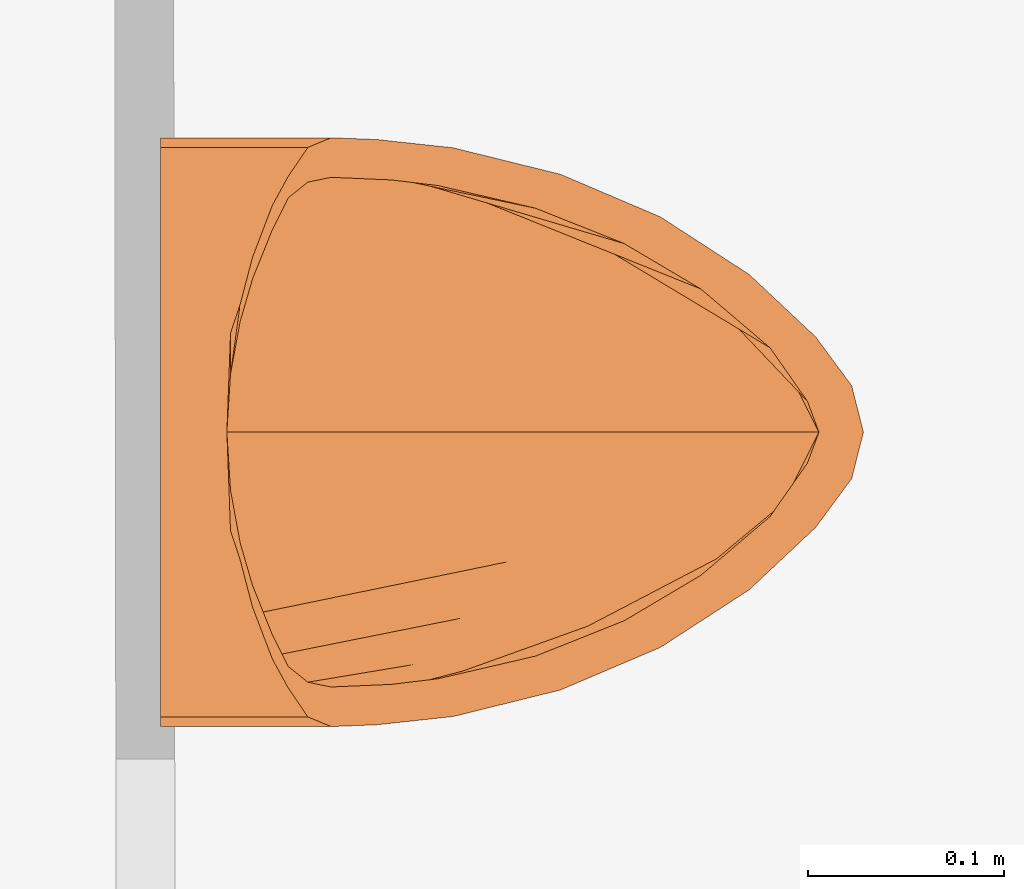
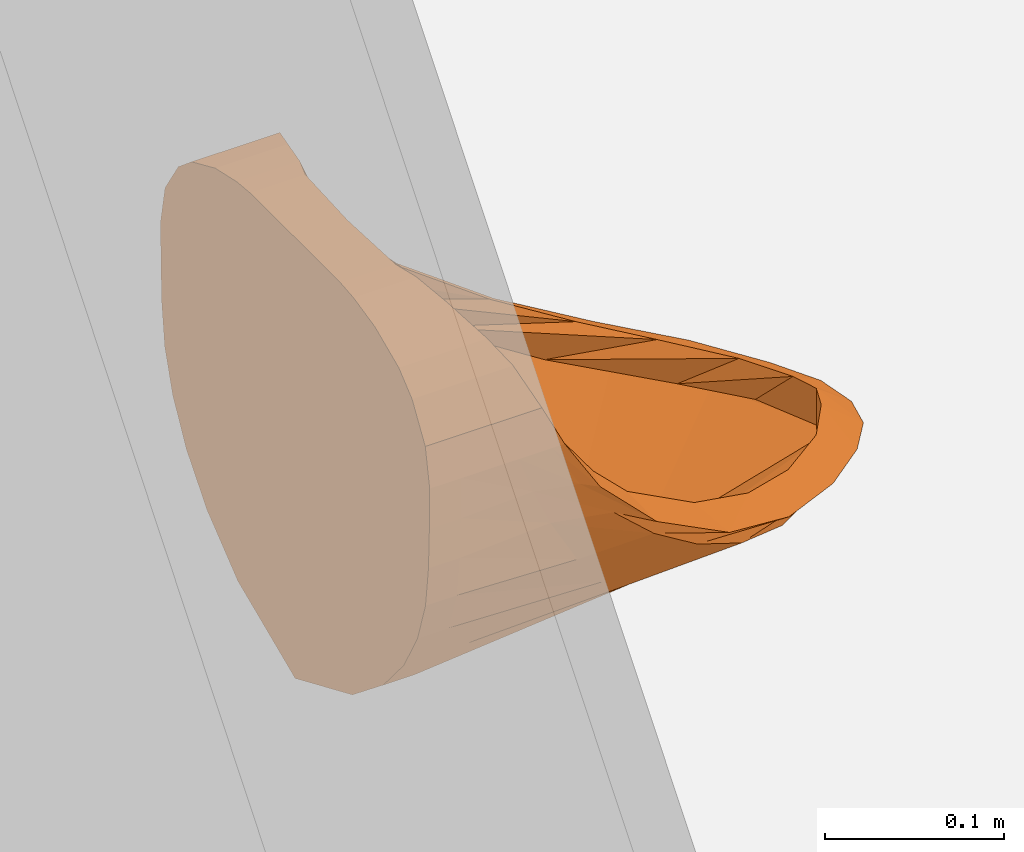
# One storey, part 154 of 158: 1 proxy.
"""IFC2X3 building model written with IfcOpenShell, lengths in metres."""

from ifc_helpers import new_model, entity, si_unit, converted_unit, derived_unit, money_unit, direction, frame, origin_with_axes, place, context, subcontext, project, spatial, open_shell, faceted_brep, surface_model, type_object, element, save


model = new_model("IFC2X3")

# Units and contexts
model_context = context("Model", 3, precision=1e-05, world=origin_with_axes(), true_north=direction((0.0, 1.0)))
body_context = subcontext(model_context, "Body", "Model", "MODEL_VIEW")
ifc_project = project(units=[si_unit("LENGTHUNIT", "METRE"), si_unit("AREAUNIT", "SQUARE_METRE"), si_unit("VOLUMEUNIT", "CUBIC_METRE"), converted_unit("PLANEANGLEUNIT", "DEGREE", entity("IfcPlaneAngleMeasure", 0.0174532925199), si_unit("PLANEANGLEUNIT", "RADIAN"), dimensions=[0, 0, 0, 0, 0, 0, 0]), money_unit("EUR"), converted_unit("TIMEUNIT", "Year", entity("IfcTimeMeasure", 31556926.0), si_unit("TIMEUNIT", "SECOND"), dimensions=[0, 0, 1, 0, 0, 0, 0]), si_unit("MASSUNIT", "GRAM", prefix="KILO"), si_unit("THERMODYNAMICTEMPERATUREUNIT", "DEGREE_CELSIUS"), si_unit("LUMINOUSINTENSITYUNIT", "LUMEN"), si_unit("ENERGYUNIT", "JOULE", prefix="MEGA"), derived_unit("THERMALCONDUCTANCEUNIT", [(si_unit("POWERUNIT", "WATT"), 1), (si_unit("LENGTHUNIT", "METRE"), -1), (si_unit("THERMODYNAMICTEMPERATUREUNIT", "KELVIN"), -1)]), derived_unit("SPECIFICHEATCAPACITYUNIT", [(si_unit("ENERGYUNIT", "JOULE"), 1), (si_unit("MASSUNIT", "GRAM", prefix="KILO"), -1), (si_unit("THERMODYNAMICTEMPERATUREUNIT", "KELVIN"), -1)]), derived_unit("MASSDENSITYUNIT", [(si_unit("MASSUNIT", "GRAM", prefix="KILO"), 1), (si_unit("VOLUMEUNIT", "CUBIC_METRE"), -1)])], contexts=[model_context])

# Site, building, storey
site_placement = place(None, origin_with_axes())
site = spatial("IfcSite", under=ifc_project, at=site_placement, Name="Gelände", CompositionType="ELEMENT")
building_placement = place(site_placement, origin_with_axes())
building = spatial("IfcBuilding", under=site, at=building_placement, Name="Gebäude", CompositionType="ELEMENT")
storey_placement = place(building_placement, origin_with_axes())
storey = spatial("IfcBuildingStorey", under=building, at=storey_placement, Name="ERDGESCHOSS", CompositionType="ELEMENT", Elevation=0.0)

# Proxy
building_element_proxy_type = type_object("IfcBuildingElementProxyType", Name="Urinal 1 25", PredefinedType="NOTDEFINED")
proxy_placement = place(storey_placement, frame((13.2964226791, 23.1606576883, -0.10329353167), z_axis=(0.0, 0.0, 1.0), x_axis=(0.0, 1.0, 0.0)))
element("IfcBuildingElementProxy", 1, at=proxy_placement, inside=storey, type_object=building_element_proxy_type, Name="Objekt-00219", context=body_context, shape_type="SurfaceModel", body=[
    faceted_brep([(0.0, 0.00675687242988, 1.0), (-0.0503710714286, 0.00675687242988, 0.999898), (-0.0503710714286, 0.0, 0.999898), (0.0, 0.0, 1.0), (0.0503710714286, 0.00675687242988, 0.999898), (0.0650260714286, 0.00675687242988, 0.998525), (0.0890367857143, 0.00675687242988, 0.993198), (0.115533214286, 0.00675687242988, 0.981535), (0.130329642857, 0.00675687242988, 0.969181), (0.1451025, 0.00675687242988, 0.945871), (0.15, 0.00675687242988, 0.920148), (0.149671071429, 0.00675687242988, 0.89263), (0.148683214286, 0.00675687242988, 0.865111), (0.145370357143, 0.00675687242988, 0.837593), (0.136527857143, 0.00675687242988, 0.810074), (0.121330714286, 0.00675687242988, 0.782556), (0.0982478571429, 0.00675687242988, 0.755037), (0.0638796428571, 0.00675687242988, 0.727519), (0.0, 0.00675687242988, 0.7), (-0.0638796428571, 0.00675687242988, 0.727519), (-0.0982478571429, 0.00675687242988, 0.755037), (-0.121330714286, 0.00675687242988, 0.782556), (-0.136527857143, 0.00675687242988, 0.810074), (-0.145370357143, 0.00675687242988, 0.837593), (-0.148683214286, 0.00675687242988, 0.865111), (-0.149671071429, 0.00675687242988, 0.89263), (-0.15, 0.00675687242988, 0.920148), (-0.1451025, 0.00675687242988, 0.945871), (-0.130329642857, 0.00675687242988, 0.969181), (-0.115533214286, 0.00675687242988, 0.981535), (-0.0890367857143, 0.00675687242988, 0.993198), (-0.0650260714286, 0.00675687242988, 0.998525), (-0.0650260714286, 0.0, 0.998525), (-0.0890367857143, 0.0, 0.993198), (-0.115533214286, 0.0, 0.981535), (-0.130329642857, 0.0, 0.969181), (-0.1451025, 0.0, 0.945871), (-0.15, 0.0, 0.920148), (-0.149671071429, 0.0, 0.89263), (-0.148683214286, 0.0, 0.865111), (-0.145370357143, 0.0, 0.837593), (-0.136527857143, 0.0, 0.810074), (-0.121330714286, 0.0, 0.782556), (-0.0982478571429, 0.0, 0.755037), (-0.0638796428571, 0.0, 0.727519), (0.0, 0.0, 0.7), (0.0638796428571, 0.0, 0.727519), (0.0982478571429, 0.0, 0.755037), (0.121330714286, 0.0, 0.782556), (0.136527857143, 0.0, 0.810074), (0.145370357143, 0.0, 0.837593), (0.148683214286, 0.0, 0.865111), (0.149671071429, 0.0, 0.89263), (0.15, 0.0, 0.920148), (0.1451025, 0.0, 0.945871), (0.130329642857, 0.0, 0.969181), (0.115533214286, 0.0, 0.981535), (0.0890367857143, 0.0, 0.993198), (0.0650260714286, 0.0, 0.998525), (0.0503710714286, 0.0, 0.999898)], [[[0, 1, 2, 3]], [[0, 4, 5, 6, 7, 8, 9, 10, 11, 12, 13, 14, 15, 16, 17, 18, 19, 20, 21, 22, 23, 24, 25, 26, 27, 28, 29, 30, 31, 1]], [[1, 31, 32, 2]], [[3, 2, 32, 33, 34, 35, 36, 37, 38, 39, 40, 41, 42, 43, 44, 45, 46, 47, 48, 49, 50, 51, 52, 53, 54, 55, 56, 57, 58, 59]], [[4, 0, 3, 59]], [[5, 4, 59, 58]], [[6, 5, 58, 57]], [[7, 6, 57, 56]], [[8, 7, 56, 55]], [[9, 8, 55, 54]], [[10, 9, 54, 53]], [[11, 10, 53, 52]], [[12, 11, 52, 51]], [[13, 12, 51, 50]], [[14, 13, 50, 49]], [[15, 14, 49, 48]], [[16, 15, 48, 47]], [[17, 16, 47, 46]], [[18, 17, 46, 45]], [[19, 18, 45, 44]], [[20, 19, 44, 43]], [[21, 20, 43, 42]], [[22, 21, 42, 41]], [[23, 22, 41, 40]], [[24, 23, 40, 39]], [[25, 24, 39, 38]], [[26, 25, 38, 37]], [[27, 26, 37, 36]], [[28, 27, 36, 35]], [[29, 28, 35, 34]], [[30, 29, 34, 33]], [[31, 30, 33, 32]]]),
    surface_model("IfcShellBasedSurfaceModel", [(0.0, 0.0, 1.0), (0.0, -0.0135137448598, 1.0), (-0.0503710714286, -0.0135137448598, 0.999898), (0.0503710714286, 0.0, 0.999898), (-0.0503710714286, -0.0203165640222, 0.999898), (-0.0503710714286, 0.0, 0.999898), (0.0503710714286, -0.0135137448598, 0.999898), (0.0, -0.0202706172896, 1.0), (-0.0650260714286, -0.0209368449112, 0.998525), (-0.0650260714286, -0.0135137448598, 0.998525), (0.0650260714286, 0.0, 0.998525), (-0.0503710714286, -0.0260072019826, 0.999898), (-0.0650260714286, -0.0268828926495, 0.998525), (-0.0650260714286, 0.0, 0.998525), (0.0650260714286, -0.0135137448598, 0.998525), (0.0503710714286, -0.0203165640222, 0.999898), (0.0, -0.0259369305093, 1.0), (-0.0890367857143, -0.0304978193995, 0.993198), (-0.0890367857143, -0.0233085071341, 0.993198), (-0.0890367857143, -0.0135137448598, 0.993198), (0.0890367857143, 0.0, 0.993198), (-0.0503710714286, -0.0288788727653, 0.999898), (-0.0650260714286, -0.033774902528, 0.998525), (-0.0890367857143, -0.0400696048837, 0.993198), (-0.0890367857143, 0.0, 0.993198), (0.0890367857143, -0.0135137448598, 0.993198), (0.0650260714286, -0.0209368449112, 0.998525), (0.0503710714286, -0.0260072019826, 0.999898), (0.0, -0.0270274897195, 1.0), (-0.115533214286, -0.0501778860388, 0.981535), (-0.115533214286, -0.0380330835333, 0.981535), (-0.115533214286, -0.0283139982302, 0.981535), (-0.115533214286, -0.0135137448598, 0.981535), (0.115533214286, 0.0, 0.981535), (-0.115533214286, 0.0, 0.981535), (0.115533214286, -0.0135137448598, 0.981535), (0.0890367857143, -0.0233085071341, 0.993198), (0.0650260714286, -0.0268828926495, 0.998525), (0.0503710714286, -0.0288788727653, 0.999898), (-0.130329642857, -0.0582820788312, 0.969181), (-0.130329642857, -0.0456318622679, 0.969181), (-0.130329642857, -0.033341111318, 0.969181), (-0.130329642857, -0.0135137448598, 0.969181), (0.130329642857, 0.0, 0.969181), (-0.130329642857, 0.0, 0.969181), (0.130329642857, -0.0135137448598, 0.969181), (0.115533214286, -0.0283139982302, 0.981535), (0.0890367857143, -0.0304978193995, 0.993198), (0.0650260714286, -0.033774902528, 0.998525), (-0.1451025, -0.0682984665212, 0.945871), (-0.1451025, -0.0589320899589, 0.945871), (-0.1451025, -0.0420682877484, 0.945871), (-0.1451025, -0.0135137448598, 0.945871), (0.1451025, 0.0, 0.945871), (-0.1451025, 0.0, 0.945871), (0.1451025, -0.0135137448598, 0.945871), (0.130329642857, -0.033341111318, 0.969181), (0.115533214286, -0.0380330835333, 0.981535), (0.0890367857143, -0.0400696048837, 0.993198), (-0.15, -0.0801797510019, 0.920148), (-0.15, -0.0720958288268, 0.920148), (-0.15, -0.0505697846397, 0.920148), (-0.15, -0.0135137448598, 0.920148), (0.15, 0.0, 0.920148), (-0.15, 0.0, 0.920148), (0.15, -0.0135137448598, 0.920148), (0.1451025, -0.0420682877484, 0.945871), (0.130329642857, -0.0456318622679, 0.969181), (0.115533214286, -0.0501778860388, 0.981535), (-0.149088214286, -0.103467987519, 0.882346), (-0.148938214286, -0.0903839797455, 0.888729), (-0.148493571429, -0.0605010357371, 0.893637), (-0.149671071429, -0.0135137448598, 0.89263), (0.149671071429, 0.0, 0.89263), (-0.149671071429, 0.0, 0.89263), (0.149671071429, -0.0135137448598, 0.89263), (0.15, -0.0505697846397, 0.920148), (0.1451025, -0.0589320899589, 0.945871), (0.130329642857, -0.0582820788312, 0.969181), (-0.144867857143, -0.142378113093, 0.842424), (-0.146004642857, -0.113960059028, 0.859303), (-0.1458225, -0.0733080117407, 0.866246), (-0.148683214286, -0.0135137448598, 0.865111), (0.148683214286, 0.0, 0.865111), (-0.148683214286, 0.0, 0.865111), (0.148683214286, -0.0135137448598, 0.865111), (0.148493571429, -0.0605010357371, 0.893637), (0.15, -0.0720958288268, 0.920148), (0.1451025, -0.0682984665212, 0.945871), (-0.131359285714, -0.197015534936, 0.807653), (-0.1416, -0.142436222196, 0.832354), (-0.137941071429, -0.095204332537, 0.829001), (-0.145370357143, -0.0135137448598, 0.837593), (0.145370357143, 0.0, 0.837593), (-0.145370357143, 0.0, 0.837593), (0.145370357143, -0.0135137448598, 0.837593), (0.1458225, -0.0733080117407, 0.866246), (0.148938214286, -0.0903839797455, 0.888729), (0.15, -0.0801797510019, 0.920148), (-0.109682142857, -0.247913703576, 0.787417), (-0.133041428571, -0.175343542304, 0.808327), (-0.118344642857, -0.122475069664, 0.792232), (-0.136527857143, -0.0135137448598, 0.810074), (0.136527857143, 0.0, 0.810074), (-0.136527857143, 0.0, 0.810074), (0.136527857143, -0.0135137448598, 0.810074), (0.137941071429, -0.095204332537, 0.829001), (0.146004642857, -0.113960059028, 0.859303), (0.149088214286, -0.103467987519, 0.882346), (-0.0803528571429, -0.293141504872, 0.776444), (-0.1187925, -0.212140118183, 0.787618), (-0.09477, -0.146671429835, 0.76517), (-0.121330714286, -0.0135137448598, 0.782556), (0.121330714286, 0.0, 0.782556), (-0.121330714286, 0.0, 0.782556), (0.121330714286, -0.0135137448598, 0.782556), (0.118344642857, -0.122475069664, 0.792232), (0.1416, -0.142436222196, 0.832354), (0.144867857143, -0.142378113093, 0.842424), (-0.0486064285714, -0.326966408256, 0.768676), (-0.0942653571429, -0.252217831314, 0.770567), (-0.0659742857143, -0.170440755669, 0.742159), (-0.0982478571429, -0.0135137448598, 0.755037), (0.0982478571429, 0.0, 0.755037), (-0.0982478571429, 0.0, 0.755037), (0.0982478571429, -0.0135137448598, 0.755037), (0.09477, -0.146671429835, 0.76517), (0.133041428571, -0.175343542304, 0.808327), (0.131359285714, -0.197015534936, 0.807653), (-0.0237192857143, -0.345362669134, 0.765137), (-0.0589767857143, -0.294917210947, 0.757456), (-0.0335507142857, -0.193288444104, 0.724265), (-0.0638796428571, -0.0135137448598, 0.727519), (0.0638796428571, 0.0, 0.727519), (-0.0638796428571, 0.0, 0.727519), (0.0638796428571, -0.0135137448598, 0.727519), (0.0659742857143, -0.170440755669, 0.742159), (0.1187925, -0.212140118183, 0.787618), (0.109682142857, -0.247913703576, 0.787417), (0.0, -0.351357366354, 0.763229), (0.0, -0.339534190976, 0.748501), (0.0, -0.213933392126, 0.712313), (0.0, -0.0135137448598, 0.7), (0.0, 0.0, 0.7), (0.0335507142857, -0.193288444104, 0.724265), (0.0942653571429, -0.252217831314, 0.770567), (0.0803528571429, -0.293141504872, 0.776444), (0.0237192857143, -0.345362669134, 0.765137), (0.0589767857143, -0.294917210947, 0.757456), (0.0486064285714, -0.326966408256, 0.768676)], [open_shell([[[0, 1, 2]], [[3, 1, 0]], [[1, 4, 2]], [[0, 2, 5]], [[3, 6, 1]], [[1, 7, 4]], [[2, 4, 8]], [[5, 2, 9]], [[10, 6, 3]], [[6, 7, 1]], [[7, 11, 4]], [[4, 12, 8]], [[2, 8, 9]], [[5, 9, 13]], [[10, 14, 6]], [[6, 15, 7]], [[7, 16, 11]], [[4, 11, 12]], [[8, 12, 17]], [[9, 8, 18]], [[13, 9, 19]], [[20, 14, 10]], [[14, 15, 6]], [[15, 16, 7]], [[16, 21, 11]], [[11, 22, 12]], [[12, 23, 17]], [[8, 17, 18]], [[9, 18, 19]], [[13, 19, 24]], [[20, 25, 14]], [[14, 26, 15]], [[15, 27, 16]], [[16, 28, 21]], [[11, 21, 22]], [[12, 22, 23]], [[17, 23, 29]], [[18, 17, 30]], [[19, 18, 31]], [[24, 19, 32]], [[33, 25, 20]], [[25, 26, 14]], [[26, 27, 15]], [[27, 28, 16]], [[17, 29, 30]], [[18, 30, 31]], [[19, 31, 32]], [[24, 32, 34]], [[33, 35, 25]], [[25, 36, 26]], [[26, 37, 27]], [[27, 38, 28]], [[30, 29, 39]], [[31, 30, 40]], [[32, 31, 41]], [[34, 32, 42]], [[43, 35, 33]], [[35, 36, 25]], [[36, 37, 26]], [[37, 38, 27]], [[30, 39, 40]], [[31, 40, 41]], [[32, 41, 42]], [[34, 42, 44]], [[43, 45, 35]], [[35, 46, 36]], [[36, 47, 37]], [[37, 48, 38]], [[40, 39, 49]], [[41, 40, 50]], [[42, 41, 51]], [[44, 42, 52]], [[53, 45, 43]], [[45, 46, 35]], [[46, 47, 36]], [[47, 48, 37]], [[40, 49, 50]], [[41, 50, 51]], [[42, 51, 52]], [[44, 52, 54]], [[53, 55, 45]], [[45, 56, 46]], [[46, 57, 47]], [[47, 58, 48]], [[50, 49, 59]], [[51, 50, 60]], [[52, 51, 61]], [[54, 52, 62]], [[63, 55, 53]], [[55, 56, 45]], [[56, 57, 46]], [[57, 58, 47]], [[50, 59, 60]], [[51, 60, 61]], [[52, 61, 62]], [[54, 62, 64]], [[63, 65, 55]], [[55, 66, 56]], [[56, 67, 57]], [[57, 68, 58]], [[60, 59, 69]], [[61, 60, 70]], [[62, 61, 71]], [[64, 62, 72]], [[73, 65, 63]], [[65, 66, 55]], [[66, 67, 56]], [[67, 68, 57]], [[60, 69, 70]], [[61, 70, 71]], [[62, 71, 72]], [[64, 72, 74]], [[73, 75, 65]], [[65, 76, 66]], [[66, 77, 67]], [[67, 78, 68]], [[70, 69, 79]], [[71, 70, 80]], [[72, 71, 81]], [[74, 72, 82]], [[83, 75, 73]], [[75, 76, 65]], [[76, 77, 66]], [[77, 78, 67]], [[70, 79, 80]], [[71, 80, 81]], [[72, 81, 82]], [[74, 82, 84]], [[83, 85, 75]], [[75, 86, 76]], [[76, 87, 77]], [[77, 88, 78]], [[80, 79, 89]], [[81, 80, 90]], [[82, 81, 91]], [[84, 82, 92]], [[93, 85, 83]], [[85, 86, 75]], [[86, 87, 76]], [[87, 88, 77]], [[80, 89, 90]], [[81, 90, 91]], [[82, 91, 92]], [[84, 92, 94]], [[93, 95, 85]], [[85, 96, 86]], [[86, 97, 87]], [[87, 98, 88]], [[90, 89, 99]], [[91, 90, 100]], [[92, 91, 101]], [[94, 92, 102]], [[103, 95, 93]], [[95, 96, 85]], [[96, 97, 86]], [[97, 98, 87]], [[90, 99, 100]], [[91, 100, 101]], [[92, 101, 102]], [[94, 102, 104]], [[103, 105, 95]], [[95, 106, 96]], [[96, 107, 97]], [[97, 108, 98]], [[100, 99, 109]], [[101, 100, 110]], [[102, 101, 111]], [[104, 102, 112]], [[113, 105, 103]], [[105, 106, 95]], [[106, 107, 96]], [[107, 108, 97]], [[100, 109, 110]], [[101, 110, 111]], [[102, 111, 112]], [[104, 112, 114]], [[113, 115, 105]], [[105, 116, 106]], [[106, 117, 107]], [[107, 118, 108]], [[110, 109, 119]], [[111, 110, 120]], [[112, 111, 121]], [[114, 112, 122]], [[123, 115, 113]], [[115, 116, 105]], [[116, 117, 106]], [[117, 118, 107]], [[110, 119, 120]], [[111, 120, 121]], [[112, 121, 122]], [[114, 122, 124]], [[123, 125, 115]], [[115, 126, 116]], [[116, 127, 117]], [[117, 128, 118]], [[120, 119, 129]], [[121, 120, 130]], [[122, 121, 131]], [[124, 122, 132]], [[133, 125, 123]], [[125, 126, 115]], [[126, 127, 116]], [[127, 128, 117]], [[120, 129, 130]], [[121, 130, 131]], [[122, 131, 132]], [[124, 132, 134]], [[133, 135, 125]], [[125, 136, 126]], [[126, 137, 127]], [[127, 138, 128]], [[130, 129, 139]], [[131, 130, 140]], [[132, 131, 141]], [[134, 132, 142]], [[143, 135, 133]], [[135, 136, 125]], [[136, 137, 126]], [[137, 138, 127]], [[130, 139, 140]], [[131, 140, 141]], [[132, 141, 142]], [[134, 142, 143]], [[143, 142, 135]], [[135, 144, 136]], [[136, 145, 137]], [[137, 146, 138]], [[140, 139, 147]], [[141, 140, 148]], [[142, 141, 144]], [[142, 144, 135]], [[144, 145, 136]], [[145, 146, 137]], [[140, 147, 148]], [[141, 148, 144]], [[144, 148, 145]], [[145, 149, 146]], [[148, 147, 149]], [[148, 149, 145]]])]),
    surface_model("IfcShellBasedSurfaceModel", [(0.0, -0.0270274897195, 1.0), (0.0, -0.0270274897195, 0.99), (-0.0295992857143, -0.0288788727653, 0.988966), (0.0503710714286, -0.0288788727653, 0.999898), (-0.0503710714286, -0.0288788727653, 0.999898), (0.0295992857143, -0.0288788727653, 0.988966), (-0.056325, -0.033774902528, 0.98626), (0.0650260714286, -0.033774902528, 0.998525), (-0.0650260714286, -0.033774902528, 0.998525), (0.056325, -0.033774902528, 0.98626), (-0.0779764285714, -0.0400696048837, 0.98082), (0.0890367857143, -0.0400696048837, 0.993198), (-0.0890367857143, -0.0400696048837, 0.993198), (0.0779764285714, -0.0400696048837, 0.98082), (-0.103178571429, -0.0501778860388, 0.968491), (0.115533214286, -0.0501778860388, 0.981535), (-0.115533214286, -0.0501778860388, 0.981535), (0.103178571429, -0.0501778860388, 0.968491), (-0.119395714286, -0.0582820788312, 0.952746), (0.130329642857, -0.0582820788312, 0.969181), (-0.130329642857, -0.0582820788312, 0.969181), (0.119395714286, -0.0582820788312, 0.952746), (-0.127429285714, -0.0682984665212, 0.936322), (0.1451025, -0.0682984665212, 0.945871), (-0.1451025, -0.0682984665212, 0.945871), (0.127429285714, -0.0682984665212, 0.936322), (-0.129833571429, -0.0801797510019, 0.920148), (0.15, -0.0801797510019, 0.920148), (-0.15, -0.0801797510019, 0.920148), (0.129833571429, -0.0801797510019, 0.920148), (-0.128517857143, -0.110781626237, 0.87807), (0.149088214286, -0.103467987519, 0.882346), (-0.149088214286, -0.103467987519, 0.882346), (0.128517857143, -0.110781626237, 0.87807), (-0.125659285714, -0.134517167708, 0.854025), (0.144867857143, -0.142378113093, 0.842424), (-0.144867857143, -0.142378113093, 0.842424), (0.125659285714, -0.134517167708, 0.854025), (-0.114079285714, -0.184359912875, 0.821972), (0.131359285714, -0.197015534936, 0.807653), (-0.131359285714, -0.197015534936, 0.807653), (0.114079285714, -0.184359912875, 0.821972), (-0.09609, -0.229447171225, 0.801839), (0.109682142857, -0.247913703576, 0.787417), (-0.109682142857, -0.247913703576, 0.787417), (0.09609, -0.229447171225, 0.801839), (-0.0730071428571, -0.268423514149, 0.790008), (0.0803528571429, -0.293141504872, 0.776444), (-0.0803528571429, -0.293141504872, 0.776444), (0.0730071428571, -0.268423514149, 0.790008), (-0.0429910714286, -0.303782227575, 0.783002), (0.0486064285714, -0.326966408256, 0.768676), (-0.0486064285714, -0.326966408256, 0.768676), (0.0429910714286, -0.303782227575, 0.783002), (-0.0157767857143, -0.322808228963, 0.78057), (0.0237192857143, -0.345362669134, 0.765137), (-0.0237192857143, -0.345362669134, 0.765137), (0.0157767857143, -0.322808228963, 0.78057), (0.0, -0.328693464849, 0.78), (0.0, -0.351357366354, 0.763229)], [open_shell([[[0, 1, 2]], [[3, 1, 0]], [[0, 2, 4]], [[3, 5, 1]], [[4, 2, 6]], [[7, 5, 3]], [[4, 6, 8]], [[7, 9, 5]], [[8, 6, 10]], [[11, 9, 7]], [[8, 10, 12]], [[11, 13, 9]], [[12, 10, 14]], [[15, 13, 11]], [[12, 14, 16]], [[15, 17, 13]], [[16, 14, 18]], [[19, 17, 15]], [[16, 18, 20]], [[19, 21, 17]], [[20, 18, 22]], [[23, 21, 19]], [[20, 22, 24]], [[23, 25, 21]], [[24, 22, 26]], [[27, 25, 23]], [[24, 26, 28]], [[27, 29, 25]], [[28, 26, 30]], [[31, 29, 27]], [[28, 30, 32]], [[31, 33, 29]], [[32, 30, 34]], [[35, 33, 31]], [[32, 34, 36]], [[35, 37, 33]], [[36, 34, 38]], [[39, 37, 35]], [[36, 38, 40]], [[39, 41, 37]], [[40, 38, 42]], [[43, 41, 39]], [[40, 42, 44]], [[43, 45, 41]], [[44, 42, 46]], [[47, 45, 43]], [[44, 46, 48]], [[47, 49, 45]], [[48, 46, 50]], [[51, 49, 47]], [[48, 50, 52]], [[51, 53, 49]], [[52, 50, 54]], [[55, 53, 51]], [[52, 54, 56]], [[55, 57, 53]], [[56, 54, 58]], [[59, 57, 55]], [[56, 58, 59]], [[59, 58, 57]]])]),
    surface_model("IfcShellBasedSurfaceModel", [(0.0, -0.0270274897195, 0.99), (0.0, -0.0193719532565, 0.965651), (-0.0274382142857, -0.0224909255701, 0.964581), (0.0295992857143, -0.0288788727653, 0.988966), (-0.0295992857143, -0.0288788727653, 0.988966), (0.0274382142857, -0.0224909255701, 0.964581), (-0.0502746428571, -0.0251639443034, 0.962521), (0.056325, -0.033774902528, 0.98626), (-0.056325, -0.033774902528, 0.98626), (0.0502746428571, -0.0251639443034, 0.962521), (-0.0711675, -0.0269950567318, 0.959712), (0.0779764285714, -0.0400696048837, 0.98082), (-0.0779764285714, -0.0400696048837, 0.98082), (0.0711675, -0.0269950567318, 0.959712), (-0.0919746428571, -0.0298505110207, 0.954245), (0.103178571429, -0.0501778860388, 0.968491), (-0.103178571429, -0.0501778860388, 0.968491), (0.0919746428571, -0.0298505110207, 0.954245), (-0.111946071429, -0.0335897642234, 0.945674), (0.119395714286, -0.0582820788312, 0.952746), (-0.119395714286, -0.0582820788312, 0.952746), (0.111946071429, -0.0335897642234, 0.945674), (-0.123648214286, -0.0374506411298, 0.937494), (0.127429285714, -0.0682984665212, 0.936322), (-0.127429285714, -0.0682984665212, 0.936322), (0.123648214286, -0.0374506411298, 0.937494), (-0.136245, -0.0434520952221, 0.920148), (0.129833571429, -0.0801797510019, 0.920148), (-0.129833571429, -0.0801797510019, 0.920148), (0.136245, -0.0434520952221, 0.920148), (-0.136804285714, -0.0597618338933, 0.892365), (0.128517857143, -0.110781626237, 0.87807), (-0.128517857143, -0.110781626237, 0.87807), (0.136804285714, -0.0597618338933, 0.892365), (-0.135535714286, -0.0818297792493, 0.864684), (0.125659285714, -0.134517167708, 0.854025), (-0.125659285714, -0.134517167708, 0.854025), (0.135535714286, -0.0818297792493, 0.864684), (-0.131289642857, -0.110551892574, 0.837549), (0.114079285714, -0.184359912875, 0.821972), (-0.114079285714, -0.184359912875, 0.821972), (0.131289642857, -0.110551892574, 0.837549), (-0.121640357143, -0.147470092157, 0.811391), (0.09609, -0.229447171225, 0.801839), (-0.09609, -0.229447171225, 0.801839), (0.121640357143, -0.147470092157, 0.811391), (-0.0988671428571, -0.210864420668, 0.780769), (0.0730071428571, -0.268423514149, 0.790008), (-0.0730071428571, -0.268423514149, 0.790008), (0.0988671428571, -0.210864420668, 0.780769), (-0.0645653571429, -0.276475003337, 0.762219), (0.0429910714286, -0.303782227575, 0.783002), (-0.0429910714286, -0.303782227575, 0.783002), (0.0645653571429, -0.276475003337, 0.762219), (-0.0362764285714, -0.310489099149, 0.756815), (0.0157767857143, -0.322808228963, 0.78057), (-0.0157767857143, -0.322808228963, 0.78057), (0.0362764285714, -0.310489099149, 0.756815), (0.0, -0.328693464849, 0.755), (0.0, -0.328693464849, 0.78)], [open_shell([[[0, 1, 2]], [[3, 1, 0]], [[0, 2, 4]], [[3, 5, 1]], [[4, 2, 6]], [[7, 5, 3]], [[4, 6, 8]], [[7, 9, 5]], [[8, 6, 10]], [[11, 9, 7]], [[8, 10, 12]], [[11, 13, 9]], [[12, 10, 14]], [[15, 13, 11]], [[12, 14, 16]], [[15, 17, 13]], [[16, 14, 18]], [[19, 17, 15]], [[16, 18, 20]], [[19, 21, 17]], [[20, 18, 22]], [[23, 21, 19]], [[20, 22, 24]], [[23, 25, 21]], [[24, 22, 26]], [[27, 25, 23]], [[24, 26, 28]], [[27, 29, 25]], [[28, 26, 30]], [[31, 29, 27]], [[28, 30, 32]], [[31, 33, 29]], [[32, 30, 34]], [[35, 33, 31]], [[32, 34, 36]], [[35, 37, 33]], [[36, 34, 38]], [[39, 37, 35]], [[36, 38, 40]], [[39, 41, 37]], [[40, 38, 42]], [[43, 41, 39]], [[40, 42, 44]], [[43, 45, 41]], [[44, 42, 46]], [[47, 45, 43]], [[44, 46, 48]], [[47, 49, 45]], [[48, 46, 50]], [[51, 49, 47]], [[48, 50, 52]], [[51, 53, 49]], [[52, 50, 54]], [[55, 53, 51]], [[52, 54, 56]], [[55, 57, 53]], [[56, 54, 58]], [[59, 57, 55]], [[56, 58, 59]], [[59, 58, 57]]])]),
])

save(model, "model.ifc")
